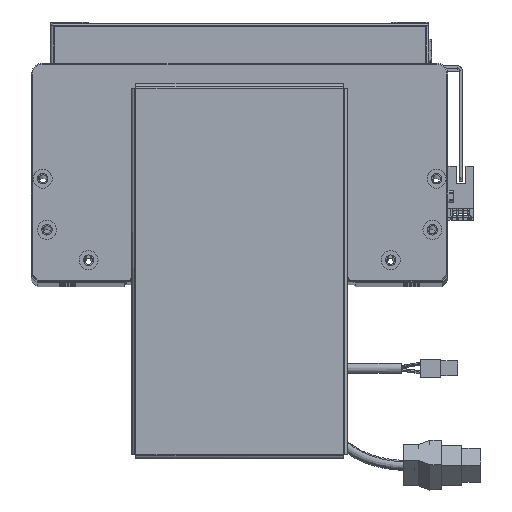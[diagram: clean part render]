
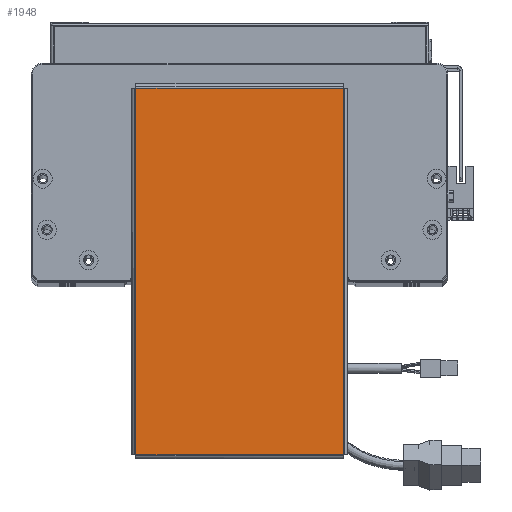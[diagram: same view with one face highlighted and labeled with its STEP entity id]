
A CAD part, top view. The second image highlights one B-rep face of the part: STEP entity #1948.
In plain terms, the highlighted planar face has unit normal (0, 0, 1).
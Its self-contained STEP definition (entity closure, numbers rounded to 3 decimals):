
#455 = ORIENTED_EDGE ( 'NONE', *, *, #24165, .T. ) ;
#1765 = VERTEX_POINT ( 'NONE', #51789 ) ;
#1860 = EDGE_CURVE ( 'NONE', #10850, #58441, #3036, .T. ) ;
#1948 = ADVANCED_FACE ( 'NONE', ( #43470 ), #8018, .T. ) ;
#2483 = CARTESIAN_POINT ( 'NONE',  ( 96.763, -54.793, 0. ) ) ;
#3036 = LINE ( 'NONE', #31725, #6269 ) ;
#5567 = VERTEX_POINT ( 'NONE', #42528 ) ;
#6269 = VECTOR ( 'NONE', #52899, 1000. ) ;
#8018 = PLANE ( 'NONE',  #43884 ) ;
#10494 = CARTESIAN_POINT ( 'NONE',  ( 96.763, 54.763, 0. ) ) ;
#10850 = VERTEX_POINT ( 'NONE', #10494 ) ;
#17187 = DIRECTION ( 'NONE',  ( 0., 1., 0. ) ) ;
#17308 = CARTESIAN_POINT ( 'NONE',  ( 0., 0., 0. ) ) ;
#17353 = LINE ( 'NONE', #35105, #33452 ) ;
#21523 = CARTESIAN_POINT ( 'NONE',  ( -96.763, 54.763, 0. ) ) ;
#24165 = EDGE_CURVE ( 'NONE', #5567, #10850, #39618, .T. ) ;
#28335 = DIRECTION ( 'NONE',  ( 1., 0., 0. ) ) ;
#31725 = CARTESIAN_POINT ( 'NONE',  ( 96.793, 54.763, 0. ) ) ;
#33452 = VECTOR ( 'NONE', #61049, 1000. ) ;
#34368 = CARTESIAN_POINT ( 'NONE',  ( -96.793, -54.763, 0. ) ) ;
#35105 = CARTESIAN_POINT ( 'NONE',  ( -96.763, 54.793, 0. ) ) ;
#39618 = LINE ( 'NONE', #2483, #54951 ) ;
#40392 = EDGE_LOOP ( 'NONE', ( #62199, #455, #58146, #45962 ) ) ;
#41214 = EDGE_CURVE ( 'NONE', #1765, #5567, #56953, .T. ) ;
#42528 = CARTESIAN_POINT ( 'NONE',  ( 96.763, -54.763, 0. ) ) ;
#43470 = FACE_OUTER_BOUND ( 'NONE', #40392, .T. ) ;
#43884 = AXIS2_PLACEMENT_3D ( 'NONE', #17308, #53597, #28335 ) ;
#44055 = VECTOR ( 'NONE', #54911, 1000. ) ;
#45962 = ORIENTED_EDGE ( 'NONE', *, *, #48419, .T. ) ;
#48419 = EDGE_CURVE ( 'NONE', #58441, #1765, #17353, .T. ) ;
#51789 = CARTESIAN_POINT ( 'NONE',  ( -96.763, -54.763, 0. ) ) ;
#52899 = DIRECTION ( 'NONE',  ( -1., 0., 0. ) ) ;
#53597 = DIRECTION ( 'NONE',  ( 0., 0., 1. ) ) ;
#54911 = DIRECTION ( 'NONE',  ( 1., 0., 0. ) ) ;
#54951 = VECTOR ( 'NONE', #17187, 1000. ) ;
#56953 = LINE ( 'NONE', #34368, #44055 ) ;
#58146 = ORIENTED_EDGE ( 'NONE', *, *, #1860, .T. ) ;
#58441 = VERTEX_POINT ( 'NONE', #21523 ) ;
#61049 = DIRECTION ( 'NONE',  ( 0., -1., 0. ) ) ;
#62199 = ORIENTED_EDGE ( 'NONE', *, *, #41214, .T. ) ;
